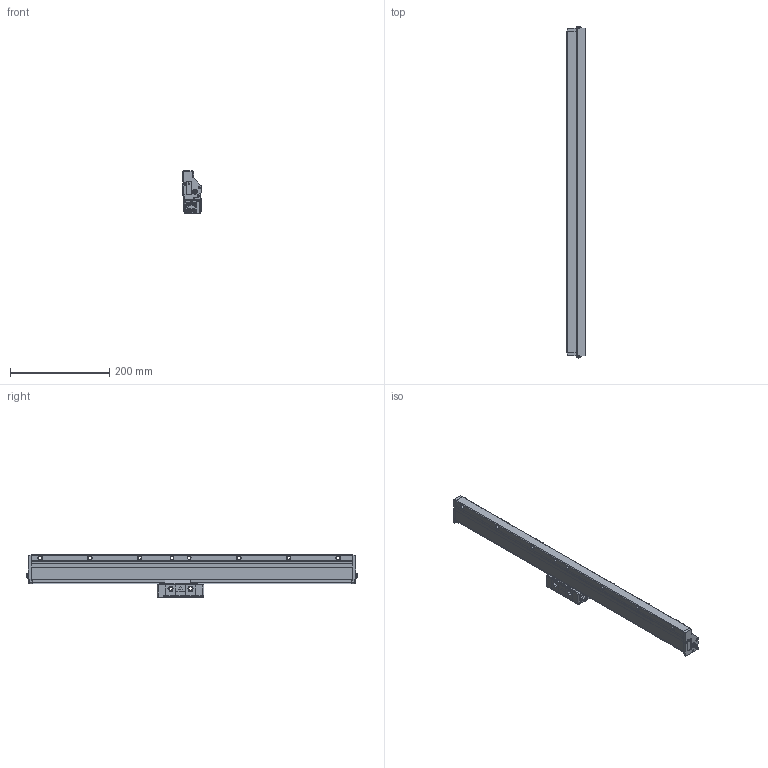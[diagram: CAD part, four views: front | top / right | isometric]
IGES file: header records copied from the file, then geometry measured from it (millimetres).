
Start section: Elysium IGES Interface
Global section: file name: 81HK:\20_商品設計\設計１課\個人\宮澤\郷間さん\AT1153\3D\NEW_ﾌｧｲﾙ\IGES\AT1153-540.igs; native system: Creo Elements/Direct Modeling 18.1B  29-Sep-2012; preprocessor: Creo Element/Direct IGES_3D V2.2; author: Unknown; organization: Unknown; date: 20181012.110307; units: millimetre
Bounding box: 37 x 668.44 x 85 mm (x, y, z)
Volume: 1085328 mm3; surface area: 162257 mm2
Topology: 2 solids, 2 shells, 2646 faces, 6968 edges, 4504 vertices
Faces by surface type: bspline 2646
